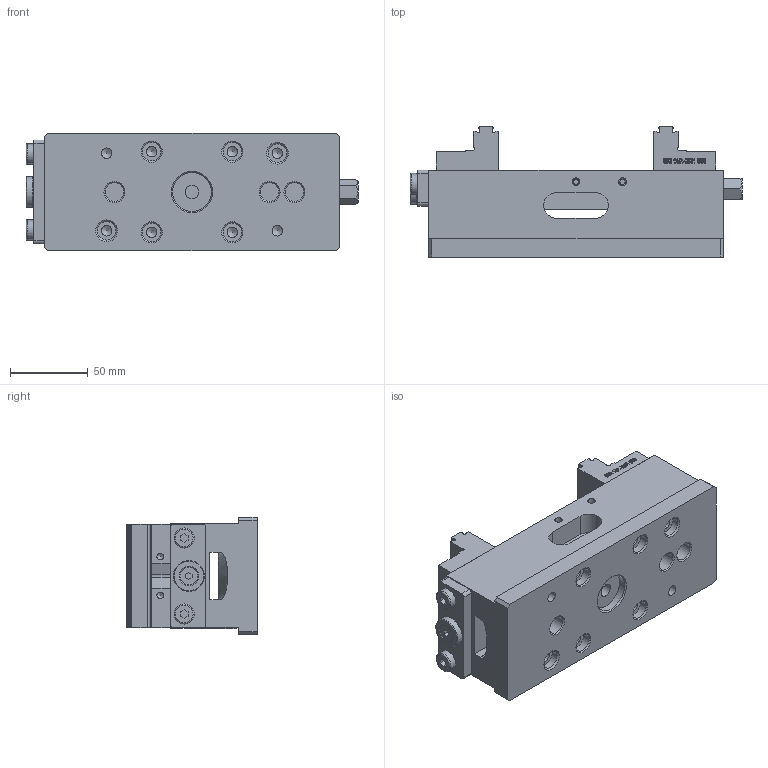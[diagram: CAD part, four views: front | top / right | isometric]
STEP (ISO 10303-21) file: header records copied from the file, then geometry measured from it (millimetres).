
FILE_DESCRIPTION (( 'STEP AP214' ), '1' );
FILE_NAME ('3D-6921528034155.STEP', '2023-12-22T07:26:55', ( '' ), ( '' ), 'SwSTEP 2.0', 'SolidWorks 2021', '' );
FILE_SCHEMA (( 'AUTOMOTIVE_DESIGN' ));
Length unit declared in the file: millimetre
Products named in the file (4): 3D-692152803x155; 3D-6921524011000; 3D-6921524021000; 3D-6921528034155
Assembly tree (3 placements, depth 2):
  3D-6921528034155
    3D-692152803x155
    3D-6921524011000
    3D-6921524021000
Bounding box: 214 x 84 x 76 mm (x, y, z)
Volume: 772395.4 mm3; surface area: 109291.6 mm2
Topology: 3 solids, 3 shells, 2324 faces, 6195 edges, 4118 vertices
Faces by surface type: plane 1276, bspline 767, cylinder 240, cone 39, torus 2
Full cylindrical faces by diameter (mm): 4.2 x8, 5 x6, 6.8 x8, 8.5 x1, 11.6 x1, 12 x9, 13 x2, 17.5 x1, 20 x1, 25 x1
Entity records: 112879 total; most frequent: CARTESIAN_POINT 60958, ORIENTED_EDGE 12166, DIRECTION 7475, EDGE_CURVE 6083, VERTEX_POINT 4085, LINE 4031, VECTOR 4031, EDGE_LOOP 2660
